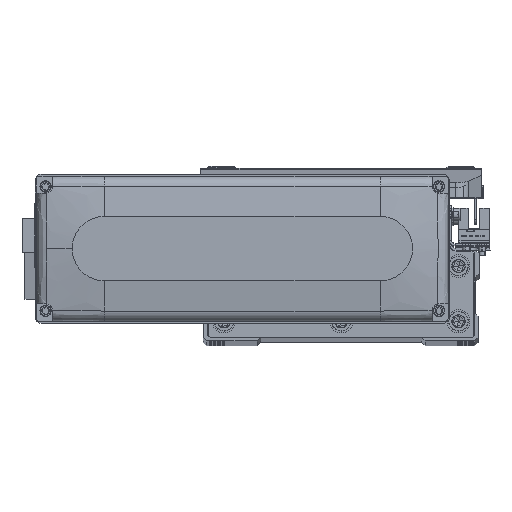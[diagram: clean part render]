
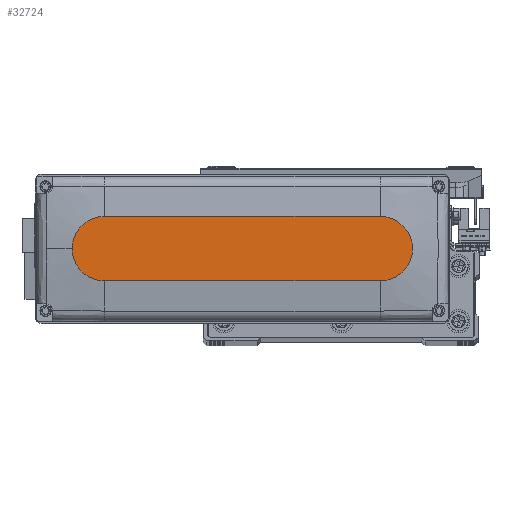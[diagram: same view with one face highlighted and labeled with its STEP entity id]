
A CAD part, top view. The second image highlights one B-rep face of the part: STEP entity #32724.
In plain terms, the highlighted planar face has unit normal (0, 0, 1).
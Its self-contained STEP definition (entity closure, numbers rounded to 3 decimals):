
#2235 = CARTESIAN_POINT ( 'NONE',  ( 60., 0., 28.5 ) ) ;
#3624 = CARTESIAN_POINT ( 'NONE',  ( 60., 14., 28.5 ) ) ;
#3972 = VERTEX_POINT ( 'NONE', #10365 ) ;
#4493 = VERTEX_POINT ( 'NONE', #3624 ) ;
#6909 = PLANE ( 'NONE',  #24912 ) ;
#7211 = EDGE_CURVE ( 'NONE', #3972, #41657, #45814, .T. ) ;
#7369 = ORIENTED_EDGE ( 'NONE', *, *, #46703, .T. ) ;
#7399 = DIRECTION ( 'NONE',  ( 1., 0., 0. ) ) ;
#9240 = DIRECTION ( 'NONE',  ( 1., 0., 0. ) ) ;
#10365 = CARTESIAN_POINT ( 'NONE',  ( -60., -14., 28.5 ) ) ;
#10618 = FACE_OUTER_BOUND ( 'NONE', #12970, .T. ) ;
#11409 = AXIS2_PLACEMENT_3D ( 'NONE', #2235, #20015, #46426 ) ;
#12970 = EDGE_LOOP ( 'NONE', ( #18594, #7369, #19874, #17658, #30562 ) ) ;
#14079 = DIRECTION ( 'NONE',  ( 0., 0., 1. ) ) ;
#15399 = DIRECTION ( 'NONE',  ( 0., 0., 1. ) ) ;
#15645 = DIRECTION ( 'NONE',  ( 1., 0., 0. ) ) ;
#16113 = EDGE_CURVE ( 'NONE', #4493, #29090, #42699, .T. ) ;
#16806 = VECTOR ( 'NONE', #9240, 1000. ) ;
#17658 = ORIENTED_EDGE ( 'NONE', *, *, #41533, .T. ) ;
#18594 = ORIENTED_EDGE ( 'NONE', *, *, #16113, .T. ) ;
#19874 = ORIENTED_EDGE ( 'NONE', *, *, #7211, .T. ) ;
#20011 = DIRECTION ( 'NONE',  ( 0., 0., 1. ) ) ;
#20015 = DIRECTION ( 'NONE',  ( 0., 0., 1. ) ) ;
#21736 = CARTESIAN_POINT ( 'NONE',  ( 0., 0., 28.5 ) ) ;
#22607 = CIRCLE ( 'NONE', #47817, 14. ) ;
#24198 = DIRECTION ( 'NONE',  ( -1., 0., 0. ) ) ;
#24700 = CARTESIAN_POINT ( 'NONE',  ( -60., 14., 28.5 ) ) ;
#24912 = AXIS2_PLACEMENT_3D ( 'NONE', #21736, #14079, #7399 ) ;
#26963 = CARTESIAN_POINT ( 'NONE',  ( -60., 0., 28.5 ) ) ;
#27176 = CARTESIAN_POINT ( 'NONE',  ( -60., 14., 28.5 ) ) ;
#27555 = CARTESIAN_POINT ( 'NONE',  ( -60., -14., 28.5 ) ) ;
#29090 = VERTEX_POINT ( 'NONE', #24700 ) ;
#30562 = ORIENTED_EDGE ( 'NONE', *, *, #31404, .T. ) ;
#31147 = DIRECTION ( 'NONE',  ( 1., 0., 0. ) ) ;
#31404 = EDGE_CURVE ( 'NONE', #46396, #4493, #33489, .T. ) ;
#32724 = ADVANCED_FACE ( 'NONE', ( #10618 ), #6909, .T. ) ;
#33489 = CIRCLE ( 'NONE', #11409, 14. ) ;
#35022 = VECTOR ( 'NONE', #24198, 1000. ) ;
#38354 = CARTESIAN_POINT ( 'NONE',  ( 60., 0., 28.5 ) ) ;
#39313 = CARTESIAN_POINT ( 'NONE',  ( 60., -14., 28.5 ) ) ;
#39457 = AXIS2_PLACEMENT_3D ( 'NONE', #26963, #20011, #31147 ) ;
#41533 = EDGE_CURVE ( 'NONE', #41657, #46396, #22607, .T. ) ;
#41657 = VERTEX_POINT ( 'NONE', #39313 ) ;
#42699 = LINE ( 'NONE', #27176, #35022 ) ;
#45814 = LINE ( 'NONE', #27555, #16806 ) ;
#46396 = VERTEX_POINT ( 'NONE', #47453 ) ;
#46426 = DIRECTION ( 'NONE',  ( 1., 0., 0. ) ) ;
#46541 = CIRCLE ( 'NONE', #39457, 14. ) ;
#46703 = EDGE_CURVE ( 'NONE', #29090, #3972, #46541, .T. ) ;
#47453 = CARTESIAN_POINT ( 'NONE',  ( 74., 0., 28.5 ) ) ;
#47817 = AXIS2_PLACEMENT_3D ( 'NONE', #38354, #15399, #15645 ) ;
